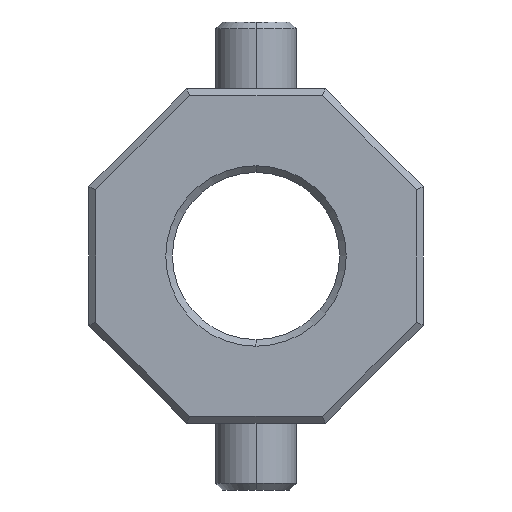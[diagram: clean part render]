
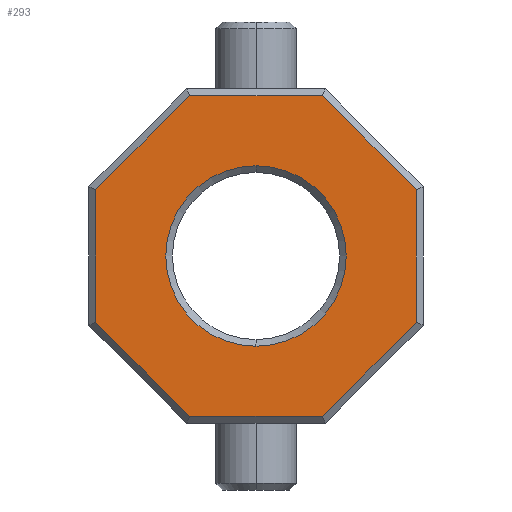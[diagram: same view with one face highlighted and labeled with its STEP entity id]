
A CAD part, left-side view. The second image highlights one B-rep face of the part: STEP entity #293.
In plain terms, the highlighted planar face has unit normal (-1, 0, 0).
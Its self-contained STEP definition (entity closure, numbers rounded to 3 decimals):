
#14 = ORIENTED_EDGE ( 'NONE', *, *, #2022, .T. ) ;
#25 = VECTOR ( 'NONE', #985, 1000. ) ;
#49 = ORIENTED_EDGE ( 'NONE', *, *, #605, .T. ) ;
#50 = FACE_OUTER_BOUND ( 'NONE', #1633, .T. ) ;
#92 = EDGE_LOOP ( 'NONE', ( #273, #49 ) ) ;
#112 = EDGE_CURVE ( 'NONE', #795, #1950, #1057, .T. ) ;
#128 = CARTESIAN_POINT ( 'NONE',  ( -10., 0., -13.5 ) ) ;
#137 = DIRECTION ( 'NONE',  ( 0., 0.707, 0.707 ) ) ;
#151 = AXIS2_PLACEMENT_3D ( 'NONE', #1737, #1709, #314 ) ;
#160 = EDGE_CURVE ( 'NONE', #1004, #795, #780, .T. ) ;
#163 = LINE ( 'NONE', #809, #546 ) ;
#179 = PLANE ( 'NONE',  #465 ) ;
#184 = EDGE_CURVE ( 'NONE', #1812, #1770, #1739, .T. ) ;
#240 = DIRECTION ( 'NONE',  ( 1., 0., 0. ) ) ;
#246 = ORIENTED_EDGE ( 'NONE', *, *, #112, .T. ) ;
#249 = CARTESIAN_POINT ( 'NONE',  ( -10., 9.941, 24. ) ) ;
#250 = DIRECTION ( 'NONE',  ( 0., 0., 1. ) ) ;
#273 = ORIENTED_EDGE ( 'NONE', *, *, #1463, .T. ) ;
#293 = ADVANCED_FACE ( 'NONE', ( #50, #1314 ), #179, .T. ) ;
#314 = DIRECTION ( 'NONE',  ( 0., 0., 1. ) ) ;
#388 = CARTESIAN_POINT ( 'NONE',  ( -10., 24., -9.941 ) ) ;
#407 = CARTESIAN_POINT ( 'NONE',  ( -10., -24., 0. ) ) ;
#425 = CIRCLE ( 'NONE', #151, 13.5 ) ;
#437 = VECTOR ( 'NONE', #572, 1000. ) ;
#444 = ORIENTED_EDGE ( 'NONE', *, *, #184, .T. ) ;
#465 = AXIS2_PLACEMENT_3D ( 'NONE', #693, #1596, #1118 ) ;
#522 = CARTESIAN_POINT ( 'NONE',  ( -10., -16.971, -16.971 ) ) ;
#546 = VECTOR ( 'NONE', #2023, 1000. ) ;
#569 = VERTEX_POINT ( 'NONE', #128 ) ;
#572 = DIRECTION ( 'NONE',  ( 0., 1., 0. ) ) ;
#605 = EDGE_CURVE ( 'NONE', #569, #1490, #425, .T. ) ;
#615 = CARTESIAN_POINT ( 'NONE',  ( -10., -9.941, -24. ) ) ;
#634 = VECTOR ( 'NONE', #137, 1000. ) ;
#640 = ORIENTED_EDGE ( 'NONE', *, *, #1686, .T. ) ;
#693 = CARTESIAN_POINT ( 'NONE',  ( -10., 0., 0. ) ) ;
#710 = VECTOR ( 'NONE', #250, 1000. ) ;
#733 = CARTESIAN_POINT ( 'NONE',  ( -10., 0., 13.5 ) ) ;
#780 = LINE ( 'NONE', #1710, #634 ) ;
#791 = EDGE_CURVE ( 'NONE', #1770, #1976, #1137, .T. ) ;
#795 = VERTEX_POINT ( 'NONE', #1466 ) ;
#799 = LINE ( 'NONE', #1422, #1803 ) ;
#809 = CARTESIAN_POINT ( 'NONE',  ( -10., 16.971, 16.971 ) ) ;
#888 = CIRCLE ( 'NONE', #1081, 13.5 ) ;
#899 = ORIENTED_EDGE ( 'NONE', *, *, #1308, .T. ) ;
#902 = DIRECTION ( 'NONE',  ( 0., 0., 1. ) ) ;
#908 = CARTESIAN_POINT ( 'NONE',  ( -10., 24., 0. ) ) ;
#921 = EDGE_CURVE ( 'NONE', #1976, #1004, #1197, .T. ) ;
#948 = VECTOR ( 'NONE', #1830, 1000. ) ;
#985 = DIRECTION ( 'NONE',  ( 0., -0.707, 0.707 ) ) ;
#1004 = VERTEX_POINT ( 'NONE', #1402 ) ;
#1055 = VERTEX_POINT ( 'NONE', #1911 ) ;
#1057 = LINE ( 'NONE', #1994, #437 ) ;
#1081 = AXIS2_PLACEMENT_3D ( 'NONE', #1826, #240, #902 ) ;
#1118 = DIRECTION ( 'NONE',  ( 0., 0., 1. ) ) ;
#1137 = LINE ( 'NONE', #522, #25 ) ;
#1197 = LINE ( 'NONE', #407, #710 ) ;
#1289 = ORIENTED_EDGE ( 'NONE', *, *, #921, .T. ) ;
#1308 = EDGE_CURVE ( 'NONE', #1055, #1383, #1842, .T. ) ;
#1314 = FACE_BOUND ( 'NONE', #92, .T. ) ;
#1383 = VERTEX_POINT ( 'NONE', #388 ) ;
#1402 = CARTESIAN_POINT ( 'NONE',  ( -10., -24., 9.941 ) ) ;
#1422 = CARTESIAN_POINT ( 'NONE',  ( -10., 16.971, -16.971 ) ) ;
#1463 = EDGE_CURVE ( 'NONE', #1490, #569, #888, .T. ) ;
#1466 = CARTESIAN_POINT ( 'NONE',  ( -10., -9.941, 24. ) ) ;
#1490 = VERTEX_POINT ( 'NONE', #733 ) ;
#1557 = CARTESIAN_POINT ( 'NONE',  ( -10., 0., -24. ) ) ;
#1596 = DIRECTION ( 'NONE',  ( -1., 0., 0. ) ) ;
#1598 = ORIENTED_EDGE ( 'NONE', *, *, #160, .T. ) ;
#1633 = EDGE_LOOP ( 'NONE', ( #14, #444, #1896, #1289, #1598, #246, #640, #899 ) ) ;
#1686 = EDGE_CURVE ( 'NONE', #1950, #1055, #163, .T. ) ;
#1709 = DIRECTION ( 'NONE',  ( 1., 0., 0. ) ) ;
#1710 = CARTESIAN_POINT ( 'NONE',  ( -10., -16.971, 16.971 ) ) ;
#1737 = CARTESIAN_POINT ( 'NONE',  ( -10., 0., 0. ) ) ;
#1739 = LINE ( 'NONE', #1557, #1788 ) ;
#1745 = CARTESIAN_POINT ( 'NONE',  ( -10., -24., -9.941 ) ) ;
#1770 = VERTEX_POINT ( 'NONE', #615 ) ;
#1788 = VECTOR ( 'NONE', #1871, 1000. ) ;
#1803 = VECTOR ( 'NONE', #2059, 1000. ) ;
#1812 = VERTEX_POINT ( 'NONE', #2010 ) ;
#1826 = CARTESIAN_POINT ( 'NONE',  ( -10., 0., 0. ) ) ;
#1830 = DIRECTION ( 'NONE',  ( 0., 0., -1. ) ) ;
#1842 = LINE ( 'NONE', #908, #948 ) ;
#1871 = DIRECTION ( 'NONE',  ( 0., -1., 0. ) ) ;
#1896 = ORIENTED_EDGE ( 'NONE', *, *, #791, .T. ) ;
#1911 = CARTESIAN_POINT ( 'NONE',  ( -10., 24., 9.941 ) ) ;
#1950 = VERTEX_POINT ( 'NONE', #249 ) ;
#1976 = VERTEX_POINT ( 'NONE', #1745 ) ;
#1994 = CARTESIAN_POINT ( 'NONE',  ( -10., 0., 24. ) ) ;
#2010 = CARTESIAN_POINT ( 'NONE',  ( -10., 9.941, -24. ) ) ;
#2022 = EDGE_CURVE ( 'NONE', #1383, #1812, #799, .T. ) ;
#2023 = DIRECTION ( 'NONE',  ( 0., 0.707, -0.707 ) ) ;
#2059 = DIRECTION ( 'NONE',  ( 0., -0.707, -0.707 ) ) ;
